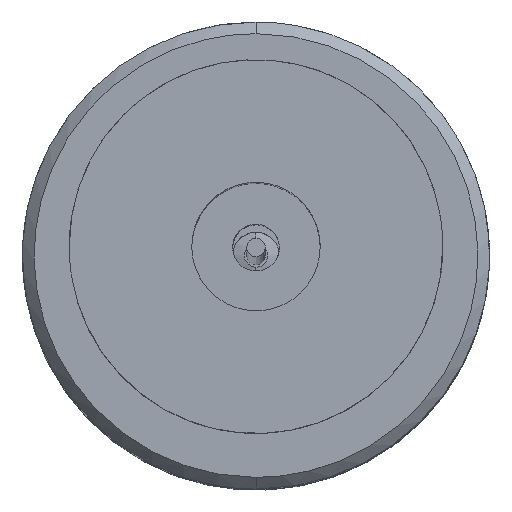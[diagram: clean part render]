
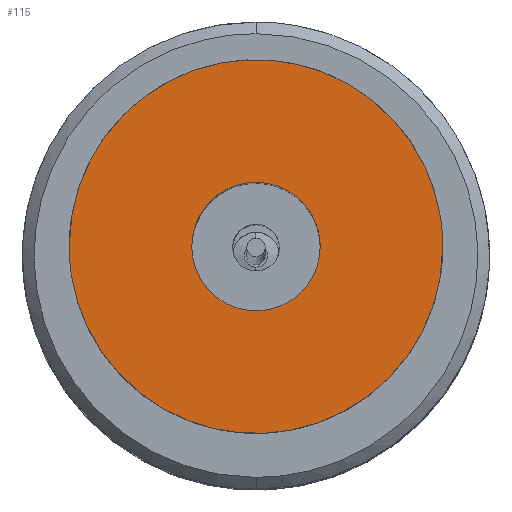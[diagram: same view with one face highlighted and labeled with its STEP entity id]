
A CAD part, top view. The second image highlights one B-rep face of the part: STEP entity #115.
In plain terms, the highlighted planar face has unit normal (0, 0, 1).
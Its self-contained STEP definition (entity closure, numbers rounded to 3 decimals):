
#90=FACE_BOUND('',#382,.T.);
#115=ADVANCED_FACE('',(#245,#90),#1996,.T.);
#245=FACE_OUTER_BOUND('',#381,.T.);
#381=EDGE_LOOP('',(#566,#567));
#382=EDGE_LOOP('',(#568,#569));
#566=ORIENTED_EDGE('',*,*,#1193,.F.);
#567=ORIENTED_EDGE('',*,*,#1166,.F.);
#568=ORIENTED_EDGE('',*,*,#1151,.T.);
#569=ORIENTED_EDGE('',*,*,#1179,.T.);
#1151=EDGE_CURVE('',#1787,#1802,#1637,.T.);
#1166=EDGE_CURVE('',#1799,#1812,#1646,.T.);
#1179=EDGE_CURVE('',#1802,#1787,#1651,.T.);
#1193=EDGE_CURVE('',#1812,#1799,#1660,.T.);
#1637=(
BOUNDED_CURVE()
B_SPLINE_CURVE(2,(#2432,#2433,#2434,#2435,#2436),.UNSPECIFIED.,.F.,.F.)
B_SPLINE_CURVE_WITH_KNOTS((3,2,3),(-17.279,-12.959,
-8.639),.UNSPECIFIED.)
CURVE()
GEOMETRIC_REPRESENTATION_ITEM()
RATIONAL_B_SPLINE_CURVE((1.,0.707,1.,0.707,1.))
REPRESENTATION_ITEM('')
);
#1646=(
BOUNDED_CURVE()
B_SPLINE_CURVE(2,(#2489,#2490,#2491,#2492,#2493),.UNSPECIFIED.,.F.,.F.)
B_SPLINE_CURVE_WITH_KNOTS((3,2,3),(0.,12.566,25.133),
 .UNSPECIFIED.)
CURVE()
GEOMETRIC_REPRESENTATION_ITEM()
RATIONAL_B_SPLINE_CURVE((1.,0.707,1.,0.707,1.))
REPRESENTATION_ITEM('')
);
#1651=(
BOUNDED_CURVE()
B_SPLINE_CURVE(2,(#2652,#2653,#2654,#2655,#2656),.UNSPECIFIED.,.F.,.F.)
B_SPLINE_CURVE_WITH_KNOTS((3,2,3),(-8.639,-4.32,
0.),.UNSPECIFIED.)
CURVE()
GEOMETRIC_REPRESENTATION_ITEM()
RATIONAL_B_SPLINE_CURVE((1.,0.707,1.,0.707,1.))
REPRESENTATION_ITEM('')
);
#1660=(
BOUNDED_CURVE()
B_SPLINE_CURVE(2,(#2707,#2708,#2709,#2710,#2711),.UNSPECIFIED.,.F.,.F.)
B_SPLINE_CURVE_WITH_KNOTS((3,2,3),(25.133,37.699,50.265),
 .UNSPECIFIED.)
CURVE()
GEOMETRIC_REPRESENTATION_ITEM()
RATIONAL_B_SPLINE_CURVE((1.,0.707,1.,0.707,1.))
REPRESENTATION_ITEM('')
);
#1787=VERTEX_POINT('',#2386);
#1799=VERTEX_POINT('',#2398);
#1802=VERTEX_POINT('',#2401);
#1812=VERTEX_POINT('',#2411);
#1996=PLANE('',#2137);
#2137=AXIS2_PLACEMENT_3D('',#2371,#2254,$);
#2254=DIRECTION('',(0.,0.,1.));
#2371=CARTESIAN_POINT('',(-10.21,-10.21,219.5));
#2386=CARTESIAN_POINT('',(-2.75,0.,219.5));
#2398=CARTESIAN_POINT('',(-8.,0.,219.5));
#2401=CARTESIAN_POINT('',(2.75,0.,219.5));
#2411=CARTESIAN_POINT('',(8.,0.,219.5));
#2432=CARTESIAN_POINT('',(-2.75,0.,219.5));
#2433=CARTESIAN_POINT('',(-2.75,2.75,219.5));
#2434=CARTESIAN_POINT('',(0.,2.75,219.5));
#2435=CARTESIAN_POINT('',(2.75,2.75,219.5));
#2436=CARTESIAN_POINT('',(2.75,0.,219.5));
#2489=CARTESIAN_POINT('',(-8.,0.,219.5));
#2490=CARTESIAN_POINT('',(-8.,8.,219.5));
#2491=CARTESIAN_POINT('',(0.,8.,219.5));
#2492=CARTESIAN_POINT('',(8.,8.,219.5));
#2493=CARTESIAN_POINT('',(8.,0.,219.5));
#2652=CARTESIAN_POINT('',(2.75,0.,219.5));
#2653=CARTESIAN_POINT('',(2.75,-2.75,219.5));
#2654=CARTESIAN_POINT('',(0.,-2.75,219.5));
#2655=CARTESIAN_POINT('',(-2.75,-2.75,219.5));
#2656=CARTESIAN_POINT('',(-2.75,0.,219.5));
#2707=CARTESIAN_POINT('',(8.,0.,219.5));
#2708=CARTESIAN_POINT('',(8.,-8.,219.5));
#2709=CARTESIAN_POINT('',(0.,-8.,219.5));
#2710=CARTESIAN_POINT('',(-8.,-8.,219.5));
#2711=CARTESIAN_POINT('',(-8.,0.,219.5));
